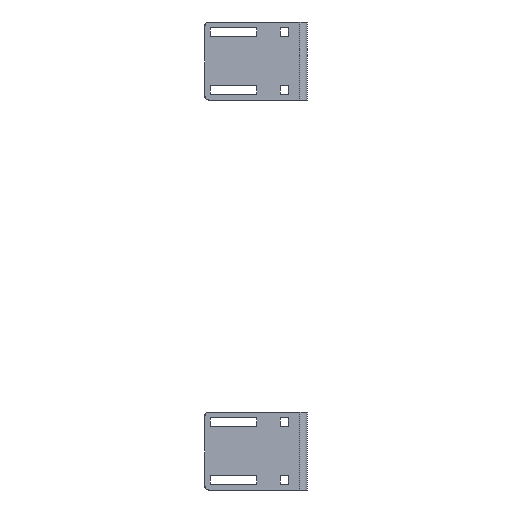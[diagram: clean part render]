
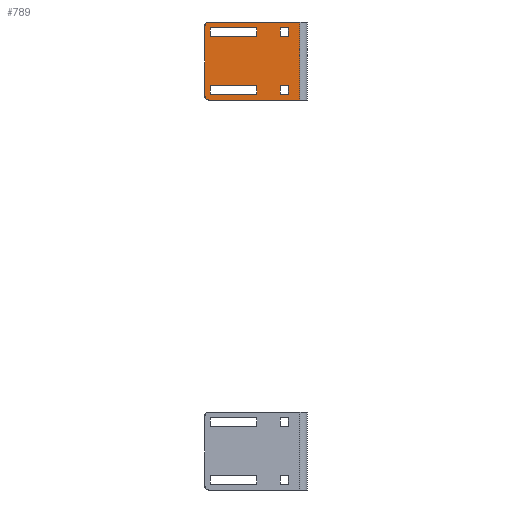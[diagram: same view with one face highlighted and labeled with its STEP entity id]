
A CAD part, left-side view. The second image highlights one B-rep face of the part: STEP entity #789.
In plain terms, the highlighted planar face has unit normal (-0.998, -0.061, 0) as drawn and (1, 0, 0) by its records, which use the part's own axes.
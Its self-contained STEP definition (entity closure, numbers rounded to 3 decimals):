
#24=FACE_BOUND('',#116,.T.);
#25=FACE_BOUND('',#117,.T.);
#26=FACE_BOUND('',#118,.T.);
#27=FACE_BOUND('',#119,.T.);
#28=FACE_BOUND('',#120,.T.);
#38=PLANE('',#846);
#116=EDGE_LOOP('',(#592,#593,#594,#595));
#117=EDGE_LOOP('',(#596,#597,#598,#599));
#118=EDGE_LOOP('',(#600,#601,#602,#603));
#119=EDGE_LOOP('',(#604,#605,#606,#607));
#120=EDGE_LOOP('',(#608,#609,#610,#611,#612,#613));
#180=LINE('',#1188,#272);
#181=LINE('',#1190,#273);
#182=LINE('',#1192,#274);
#183=LINE('',#1193,#275);
#184=LINE('',#1196,#276);
#185=LINE('',#1198,#277);
#186=LINE('',#1200,#278);
#187=LINE('',#1201,#279);
#188=LINE('',#1204,#280);
#189=LINE('',#1206,#281);
#190=LINE('',#1208,#282);
#191=LINE('',#1209,#283);
#192=LINE('',#1212,#284);
#193=LINE('',#1214,#285);
#194=LINE('',#1216,#286);
#195=LINE('',#1217,#287);
#196=LINE('',#1219,#288);
#197=LINE('',#1223,#289);
#198=LINE('',#1225,#290);
#199=LINE('',#1226,#291);
#272=VECTOR('',#958,11.);
#273=VECTOR('',#959,60.);
#274=VECTOR('',#960,11.);
#275=VECTOR('',#961,60.);
#276=VECTOR('',#962,11.);
#277=VECTOR('',#963,11.);
#278=VECTOR('',#964,11.);
#279=VECTOR('',#965,11.);
#280=VECTOR('',#966,11.);
#281=VECTOR('',#967,11.);
#282=VECTOR('',#968,11.);
#283=VECTOR('',#969,11.);
#284=VECTOR('',#970,60.);
#285=VECTOR('',#971,11.);
#286=VECTOR('',#972,60.);
#287=VECTOR('',#973,11.);
#288=VECTOR('',#974,90.);
#289=VECTOR('',#977,117.);
#290=VECTOR('',#978,100.);
#291=VECTOR('',#979,117.);
#352=CIRCLE('',#844,5.);
#354=CIRCLE('',#847,5.);
#385=VERTEX_POINT('',#1177);
#386=VERTEX_POINT('',#1178);
#389=VERTEX_POINT('',#1186);
#390=VERTEX_POINT('',#1187);
#391=VERTEX_POINT('',#1189);
#392=VERTEX_POINT('',#1191);
#393=VERTEX_POINT('',#1194);
#394=VERTEX_POINT('',#1195);
#395=VERTEX_POINT('',#1197);
#396=VERTEX_POINT('',#1199);
#397=VERTEX_POINT('',#1202);
#398=VERTEX_POINT('',#1203);
#399=VERTEX_POINT('',#1205);
#400=VERTEX_POINT('',#1207);
#401=VERTEX_POINT('',#1210);
#402=VERTEX_POINT('',#1211);
#403=VERTEX_POINT('',#1213);
#404=VERTEX_POINT('',#1215);
#405=VERTEX_POINT('',#1218);
#406=VERTEX_POINT('',#1220);
#407=VERTEX_POINT('',#1222);
#408=VERTEX_POINT('',#1224);
#464=EDGE_CURVE('',#385,#386,#352,.T.);
#468=EDGE_CURVE('',#389,#390,#180,.T.);
#469=EDGE_CURVE('',#390,#391,#181,.T.);
#470=EDGE_CURVE('',#391,#392,#182,.T.);
#471=EDGE_CURVE('',#392,#389,#183,.T.);
#472=EDGE_CURVE('',#393,#394,#184,.T.);
#473=EDGE_CURVE('',#394,#395,#185,.T.);
#474=EDGE_CURVE('',#395,#396,#186,.T.);
#475=EDGE_CURVE('',#396,#393,#187,.T.);
#476=EDGE_CURVE('',#397,#398,#188,.T.);
#477=EDGE_CURVE('',#398,#399,#189,.T.);
#478=EDGE_CURVE('',#399,#400,#190,.T.);
#479=EDGE_CURVE('',#400,#397,#191,.T.);
#480=EDGE_CURVE('',#401,#402,#192,.T.);
#481=EDGE_CURVE('',#402,#403,#193,.T.);
#482=EDGE_CURVE('',#403,#404,#194,.T.);
#483=EDGE_CURVE('',#404,#401,#195,.T.);
#484=EDGE_CURVE('',#405,#385,#196,.T.);
#485=EDGE_CURVE('',#406,#405,#354,.T.);
#486=EDGE_CURVE('',#407,#406,#197,.T.);
#487=EDGE_CURVE('',#408,#407,#198,.T.);
#488=EDGE_CURVE('',#386,#408,#199,.T.);
#592=ORIENTED_EDGE('',*,*,#468,.T.);
#593=ORIENTED_EDGE('',*,*,#469,.T.);
#594=ORIENTED_EDGE('',*,*,#470,.T.);
#595=ORIENTED_EDGE('',*,*,#471,.T.);
#596=ORIENTED_EDGE('',*,*,#472,.T.);
#597=ORIENTED_EDGE('',*,*,#473,.T.);
#598=ORIENTED_EDGE('',*,*,#474,.T.);
#599=ORIENTED_EDGE('',*,*,#475,.T.);
#600=ORIENTED_EDGE('',*,*,#476,.T.);
#601=ORIENTED_EDGE('',*,*,#477,.T.);
#602=ORIENTED_EDGE('',*,*,#478,.T.);
#603=ORIENTED_EDGE('',*,*,#479,.T.);
#604=ORIENTED_EDGE('',*,*,#480,.T.);
#605=ORIENTED_EDGE('',*,*,#481,.T.);
#606=ORIENTED_EDGE('',*,*,#482,.T.);
#607=ORIENTED_EDGE('',*,*,#483,.T.);
#608=ORIENTED_EDGE('',*,*,#464,.F.);
#609=ORIENTED_EDGE('',*,*,#484,.F.);
#610=ORIENTED_EDGE('',*,*,#485,.F.);
#611=ORIENTED_EDGE('',*,*,#486,.F.);
#612=ORIENTED_EDGE('',*,*,#487,.F.);
#613=ORIENTED_EDGE('',*,*,#488,.F.);
#789=ADVANCED_FACE('',(#24,#25,#26,#27,#28),#38,.T.);
#844=AXIS2_PLACEMENT_3D('',#1179,#950,#951);
#846=AXIS2_PLACEMENT_3D('',#1185,#956,#957);
#847=AXIS2_PLACEMENT_3D('',#1221,#975,#976);
#950=DIRECTION('center_axis',(-1.,0.,0.));
#951=DIRECTION('ref_axis',(0.,0.707,-0.707));
#956=DIRECTION('center_axis',(1.,0.,0.));
#957=DIRECTION('ref_axis',(0.,0.,-1.));
#958=DIRECTION('',(0.,0.,-1.));
#959=DIRECTION('',(0.,-1.,0.));
#960=DIRECTION('',(0.,0.,1.));
#961=DIRECTION('',(0.,1.,0.));
#962=DIRECTION('',(0.,1.,0.));
#963=DIRECTION('',(0.,0.,-1.));
#964=DIRECTION('',(0.,-1.,0.));
#965=DIRECTION('',(0.,0.,1.));
#966=DIRECTION('',(0.,1.,0.));
#967=DIRECTION('',(0.,0.,-1.));
#968=DIRECTION('',(0.,-1.,0.));
#969=DIRECTION('',(0.,0.,1.));
#970=DIRECTION('',(0.,1.,0.));
#971=DIRECTION('',(0.,0.,-1.));
#972=DIRECTION('',(0.,-1.,0.));
#973=DIRECTION('',(0.,0.,1.));
#974=DIRECTION('',(0.,0.,-1.));
#975=DIRECTION('center_axis',(-1.,0.,0.));
#976=DIRECTION('ref_axis',(0.,0.707,0.707));
#977=DIRECTION('',(0.,1.,0.));
#978=DIRECTION('',(0.,0.,1.));
#979=DIRECTION('',(0.,-1.,0.));
#1177=CARTESIAN_POINT('',(0.,132.,-45.));
#1178=CARTESIAN_POINT('',(0.,127.,-50.));
#1179=CARTESIAN_POINT('Origin',(0.,127.,-45.));
#1185=CARTESIAN_POINT('Origin',(0.,-7.155,
0.));
#1186=CARTESIAN_POINT('',(0.,125.5,42.5));
#1187=CARTESIAN_POINT('',(0.,125.5,31.5));
#1188=CARTESIAN_POINT('',(0.,125.5,21.25));
#1189=CARTESIAN_POINT('',(0.,65.5,31.5));
#1190=CARTESIAN_POINT('',(0.,59.173,31.5));
#1191=CARTESIAN_POINT('',(0.,65.5,42.5));
#1192=CARTESIAN_POINT('',(0.,65.5,15.75));
#1193=CARTESIAN_POINT('',(0.,29.173,42.5));
#1194=CARTESIAN_POINT('',(0.,24.5,42.5));
#1195=CARTESIAN_POINT('',(0.,35.5,42.5));
#1196=CARTESIAN_POINT('',(0.,8.673,42.5));
#1197=CARTESIAN_POINT('',(0.,35.5,31.5));
#1198=CARTESIAN_POINT('',(0.,35.5,21.25));
#1199=CARTESIAN_POINT('',(0.,24.5,31.5));
#1200=CARTESIAN_POINT('',(0.,14.173,31.5));
#1201=CARTESIAN_POINT('',(0.,24.5,15.75));
#1202=CARTESIAN_POINT('',(0.,24.5,-31.5));
#1203=CARTESIAN_POINT('',(0.,35.5,-31.5));
#1204=CARTESIAN_POINT('',(0.,14.173,-31.5));
#1205=CARTESIAN_POINT('',(0.,35.5,-42.5));
#1206=CARTESIAN_POINT('',(0.,35.5,-21.25));
#1207=CARTESIAN_POINT('',(0.,24.5,-42.5));
#1208=CARTESIAN_POINT('',(0.,8.673,-42.5));
#1209=CARTESIAN_POINT('',(0.,24.5,-15.75));
#1210=CARTESIAN_POINT('',(0.,65.5,-31.5));
#1211=CARTESIAN_POINT('',(0.,125.5,-31.5));
#1212=CARTESIAN_POINT('',(0.,59.173,-31.5));
#1213=CARTESIAN_POINT('',(0.,125.5,-42.5));
#1214=CARTESIAN_POINT('',(0.,125.5,-21.25));
#1215=CARTESIAN_POINT('',(0.,65.5,-42.5));
#1216=CARTESIAN_POINT('',(0.,29.173,-42.5));
#1217=CARTESIAN_POINT('',(0.,65.5,-15.75));
#1218=CARTESIAN_POINT('',(0.,132.,45.));
#1219=CARTESIAN_POINT('',(0.,132.,-50.));
#1220=CARTESIAN_POINT('',(0.,127.,50.));
#1221=CARTESIAN_POINT('Origin',(0.,127.,45.));
#1222=CARTESIAN_POINT('',(0.,10.,50.));
#1223=CARTESIAN_POINT('',(0.,132.,50.));
#1224=CARTESIAN_POINT('',(0.,10.,-50.));
#1225=CARTESIAN_POINT('',(0.,10.,0.));
#1226=CARTESIAN_POINT('',(0.,-1.31,-50.));
